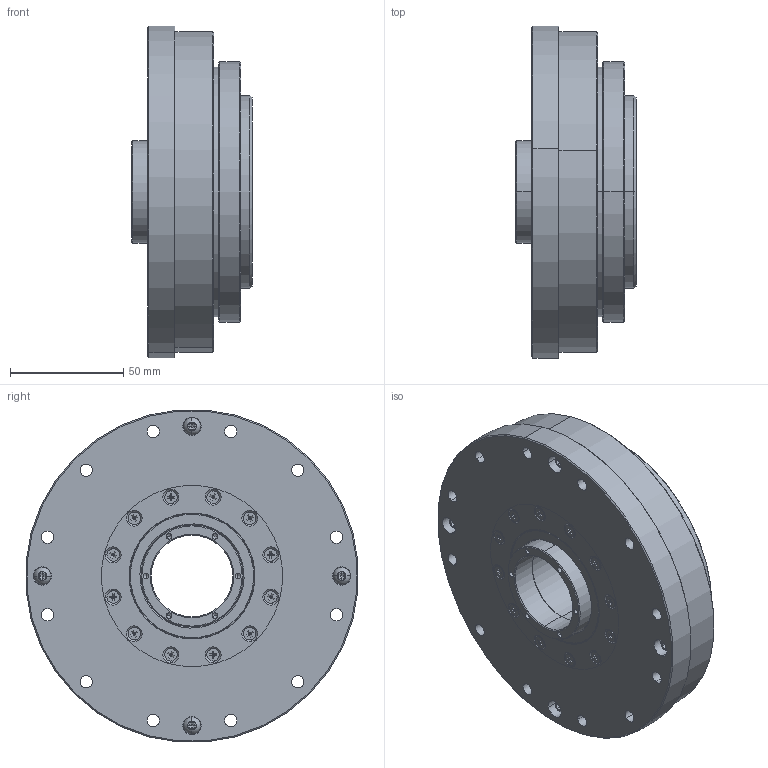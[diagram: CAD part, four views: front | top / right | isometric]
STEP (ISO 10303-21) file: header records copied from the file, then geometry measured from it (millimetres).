
FILE_DESCRIPTION (( 'STEP AP203' ), '1' );
FILE_NAME ('LHD-32-XXX-C-III.STEP', '2016-12-08T01:36:30', ( 'Windows 蚚誧' ), ( 'Users' ), 'SwSTEP 2.0', 'SolidWorks 2013', '' );
FILE_SCHEMA (( 'CONFIG_CONTROL_DESIGN' ));
Length unit declared in the file: millimetre
Products named in the file (20): RZC-32内外圈+钢球; LHD-32-XXX-C-III; LHD-32-XXX-P01-III; RZC-32悵厥殤; LHD-32-XXX-P06-III; 柔性轴承RZC-32; LHD-32-XXX-P07-III; DB-32-III-3; 15Z-45555; 6909zz; 15Z-1071196; 6809zz; ﾊｮﾗﾖﾇﾐｲﾛｳﾁﾍｷﾂﾝｶ､M3 x 8_ISO 7046-1 - M3 x 8 - Z --- 8C; DB-32-III-1; LHD-32-XXX-P03-III; 囀鞠褒攫芛蹟隊M4X12_GB_SOCKET_TYPE7 M4X10-N; LHD-32-XXX-P02-III; LHD-32-XXX-P08-III; 内六角圆柱头螺钉M4 x 8_内六角圆柱头螺钉M4 x 8; LHD-32-XXX-P04-III
Assembly tree (45 placements, depth 3):
  LHD-32-XXX-C-III
    LHD-32-XXX-P03-III
    LHD-32-XXX-P08-III
    柔性轴承RZC-32
      RZC-32内外圈+钢球
      RZC-32悵厥殤
    DB-32-III-3
    6909zz
    6809zz
    DB-32-III-1
    LHD-32-XXX-P02-III
    LHD-32-XXX-P04-III
    LHD-32-XXX-P01-III
    LHD-32-XXX-P06-III
    LHD-32-XXX-P07-III
    15Z-45555  x2
    15Z-1071196
    ﾊｮﾗﾖﾇﾐｲﾛｳﾁﾍｷﾂﾝｶ､M3 x 8_ISO 7046-1 - M3 x 8 - Z --- 8C  x12
    囀鞠褒攫芛蹟隊M4X12_GB_SOCKET_TYPE7 M4X10-N  x4
    内六角圆柱头螺钉M4 x 8_内六角圆柱头螺钉M4 x 8  x12
Bounding box: 53 x 146.44 x 146.44 mm (x, y, z)
Volume: 463191.1 mm3; surface area: 284595.7 mm2
Topology: 117 solids, 117 shells, 2041 faces, 4900 edges, 2957 vertices
Faces by surface type: cylinder 663, plane 654, cone 426, torus 152, sphere 146
Entity records: 37313 total; most frequent: DIRECTION 6818, CARTESIAN_POINT 5843, ORIENTED_EDGE 5270, AXIS2_PLACEMENT_3D 2951, EDGE_CURVE 2635, VERTEX_POINT 1704, CIRCLE 1688, EDGE_LOOP 1549
